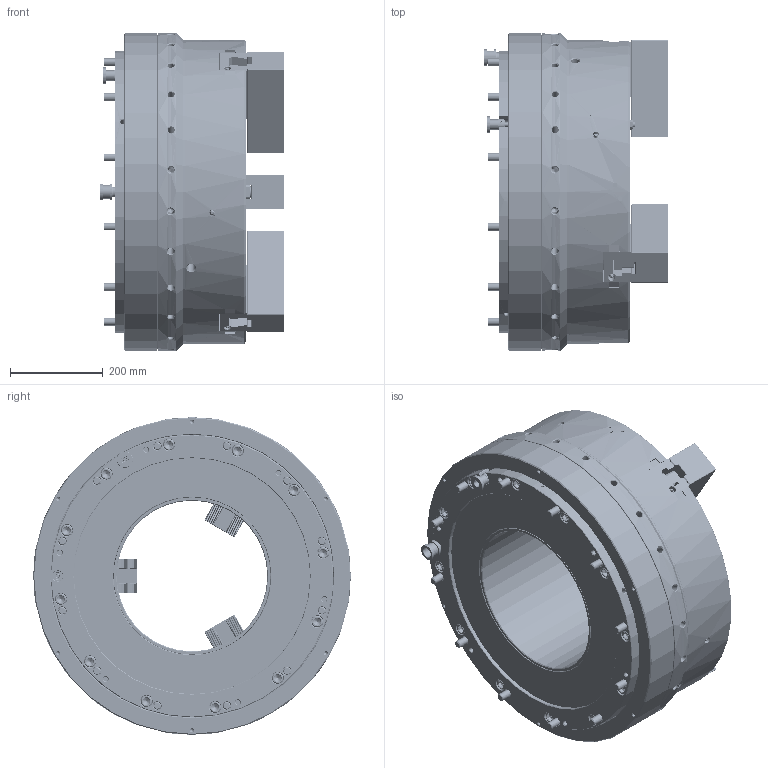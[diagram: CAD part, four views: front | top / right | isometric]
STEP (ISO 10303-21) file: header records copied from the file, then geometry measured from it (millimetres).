
FILE_DESCRIPTION (( 'STEP AP214' ), '1' );
FILE_NAME ('UPR650A325_HUL.STEP', '2025-12-26T01:58:06', ( '' ), ( '' ), 'SwSTEP 2.0', 'SolidWorks 2022', '' );
FILE_SCHEMA (( 'AUTOMOTIVE_DESIGN' ));
Length unit declared in the file: millimetre
Products named in the file (5): UPR650A325_HUL; 61P446153; 0030124060; 61P858712; UPR650A325_本体
Assembly tree (16 placements, depth 2):
  UPR650A325_HUL
    61P858712  x3
    61P446153  x6
    0030124060  x6
    UPR650A325_本体
Bounding box: 397.74 x 685 x 685 mm (x, y, z)
Volume: 75611562.4 mm3; surface area: 3370448.5 mm2
Topology: 17 solids, 37 shells, 11366 faces, 31589 edges, 20646 vertices
Faces by surface type: plane 6084, cylinder 3084, bspline 1045, cone 991, torus 150, sphere 12
Entity records: 333484 total; most frequent: CARTESIAN_POINT 113265, ORIENTED_EDGE 50606, DIRECTION 38211, EDGE_CURVE 25303, LINE 16631, VECTOR 16631, VERTEX_POINT 16593, AXIS2_PLACEMENT_3D 10790
